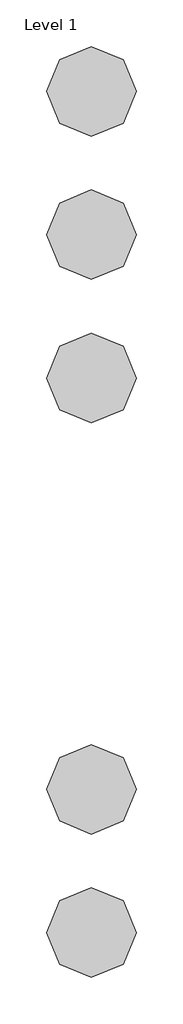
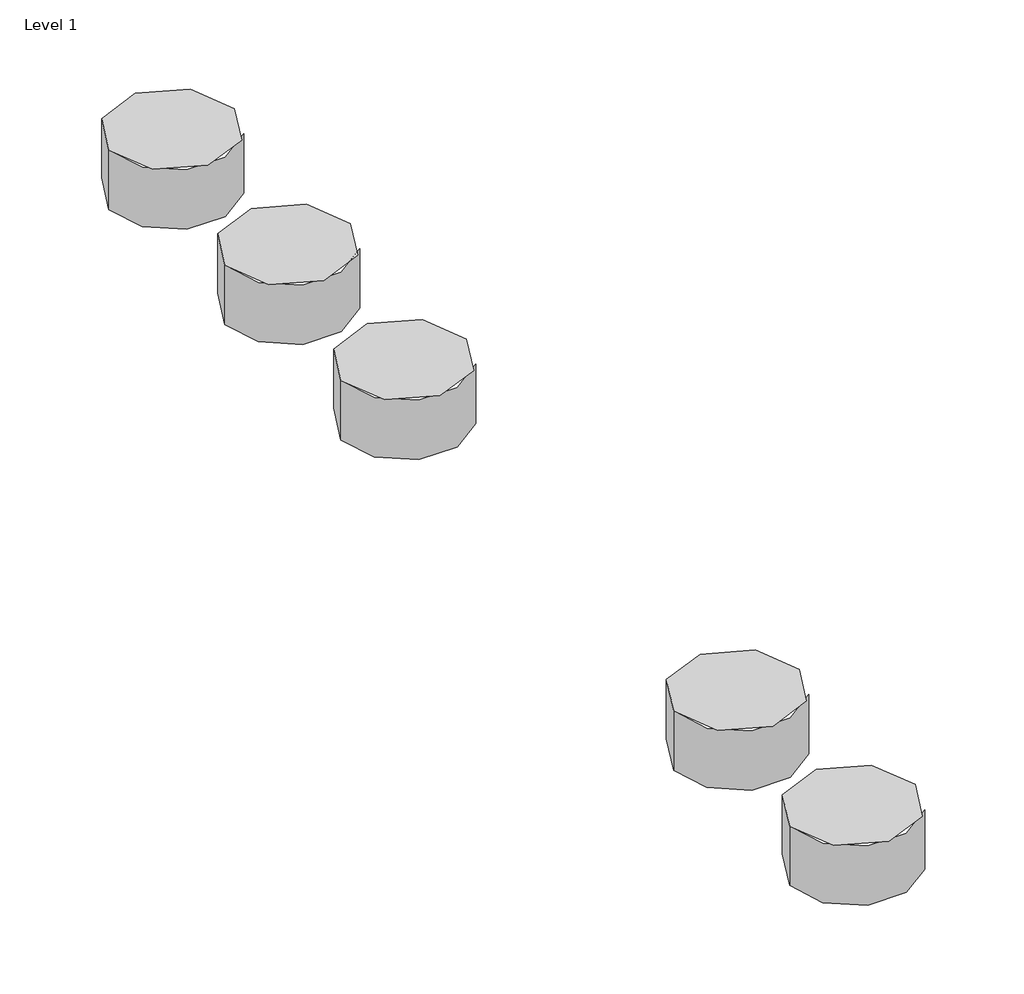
# One storey, incomplete: 5 proxies.
"""IFC4 building model written with IfcOpenShell, lengths in millimetres."""

from ifc_helpers import new_model, si_unit, origin, place, context, project, spatial, transform, mapped, element, save
from components import materialmodel_materialmodel_02e69005

model = new_model("IFC4")

# Units and contexts
model_context = context("Model", 3, world=origin())
ifc_project = project(units=[si_unit("LENGTHUNIT", "METRE", prefix="MILLI")], contexts=[model_context])

# Site, building, storey
site = spatial("IfcSite", under=ifc_project)
building = spatial("IfcBuilding", under=site)
storey = spatial("IfcBuildingStorey", under=building, Name="Level 1", Elevation=0.0)

# Proxies
placement = place(None, origin())
materialmodel_materialmodel_shape = materialmodel_materialmodel_02e69005(model_context)
element("IfcBuildingElementProxy", 1, Name="MaterialModel : MaterialModel", ObjectType="MaterialModel : MaterialModel", at=placement, inside=storey, context=model_context, shape_type="MappedRepresentation", body=[
    mapped(materialmodel_materialmodel_shape, transform((-3894.4791773, 5580.968931, 0.0), x_axis=(1.0, 0.0, 0.0), y_axis=(0.0, 1.0, 0.0), z_axis=(0.0, 0.0, 1.0))),
])
element("IfcBuildingElementProxy", 2, Name="MaterialModel : MaterialModel", ObjectType="MaterialModel : MaterialModel", at=placement, inside=storey, context=model_context, shape_type="MappedRepresentation", body=[
    mapped(materialmodel_materialmodel_shape, transform((-3894.4791773, 5420.968931, 0.0), x_axis=(1.0, 0.0, 0.0), y_axis=(0.0, 1.0, 0.0), z_axis=(0.0, 0.0, 1.0))),
])
element("IfcBuildingElementProxy", 3, Name="MaterialModel : MaterialModel", ObjectType="MaterialModel : MaterialModel", at=placement, inside=storey, context=model_context, shape_type="MappedRepresentation", body=[
    mapped(materialmodel_materialmodel_shape, transform((-3894.4791773, 6360.0792645, 0.0), x_axis=(1.0, 0.0, 0.0), y_axis=(0.0, 1.0, 0.0), z_axis=(0.0, 0.0, 1.0))),
])
element("IfcBuildingElementProxy", 4, Name="MaterialModel : MaterialModel", ObjectType="MaterialModel : MaterialModel", at=placement, inside=storey, context=model_context, shape_type="MappedRepresentation", body=[
    mapped(materialmodel_materialmodel_shape, transform((-3894.4791773, 6200.0792645, 0.0), x_axis=(1.0, 0.0, 0.0), y_axis=(0.0, 1.0, 0.0), z_axis=(0.0, 0.0, 1.0))),
])
element("IfcBuildingElementProxy", 5, Name="MaterialModel : MaterialModel", ObjectType="MaterialModel : MaterialModel", at=placement, inside=storey, context=model_context, shape_type="MappedRepresentation", body=[
    mapped(materialmodel_materialmodel_shape, transform((-3894.4791773, 6040.0792645, 0.0), x_axis=(1.0, 0.0, 0.0), y_axis=(0.0, 1.0, 0.0), z_axis=(0.0, 0.0, 1.0))),
])

save(model, "model.ifc")
